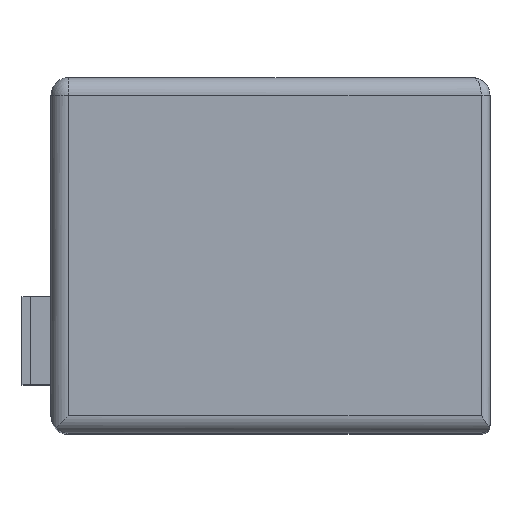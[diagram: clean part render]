
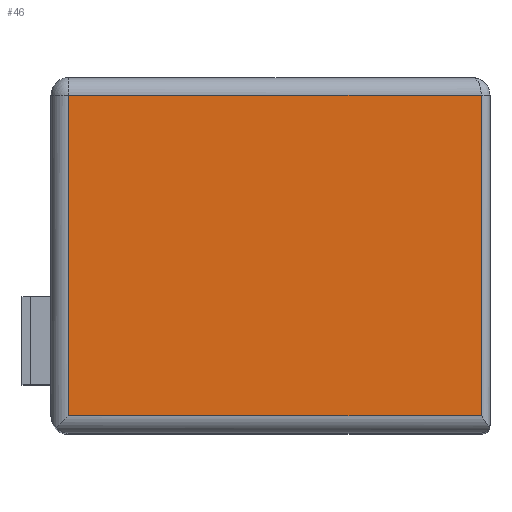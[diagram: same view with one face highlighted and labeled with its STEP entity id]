
A CAD part, top view. The second image highlights one B-rep face of the part: STEP entity #46.
In plain terms, the highlighted planar face has unit normal (0, 0, 1).
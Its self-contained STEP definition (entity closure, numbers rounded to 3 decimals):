
#46=ADVANCED_FACE('',(#142),#141,.T.);
#141=PLANE('',#685);
#142=FACE_OUTER_BOUND('',#686,.T.);
#682=CARTESIAN_POINT('',(-2.7,-42.15,94.4));
#683=DIRECTION('',(0.,0.,1.));
#684=DIRECTION('',(1.,0.,0.));
#685=AXIS2_PLACEMENT_3D('',#682,#683,#684);
#686=EDGE_LOOP('',(#885,#886,#887,#888));
#885=ORIENTED_EDGE('',*,*,#1080,.T.);
#886=ORIENTED_EDGE('',*,*,#1081,.T.);
#887=ORIENTED_EDGE('',*,*,#1072,.T.);
#888=ORIENTED_EDGE('',*,*,#1082,.T.);
#1072=EDGE_CURVE('',#1234,#1248,#1255,.T.);
#1080=EDGE_CURVE('',#1307,#1308,#1309,.T.);
#1081=EDGE_CURVE('',#1308,#1234,#1315,.T.);
#1082=EDGE_CURVE('',#1248,#1307,#1321,.T.);
#1234=VERTEX_POINT('',#1884);
#1248=VERTEX_POINT('',#1899);
#1255=LINE('',#1904,#1905);
#1307=VERTEX_POINT('',#1933);
#1308=VERTEX_POINT('',#1934);
#1309=LINE('',#1935,#1936);
#1315=LINE('',#1938,#1939);
#1321=LINE('',#1941,#1942);
#1884=CARTESIAN_POINT('',(49.,-38.5,94.4));
#1899=CARTESIAN_POINT('',(49.,-2.,94.4));
#1904=CARTESIAN_POINT('',(49.,-38.5,94.4));
#1905=VECTOR('',#1906,36.5);
#1906=DIRECTION('',(0.,1.,0.));
#1933=CARTESIAN_POINT('',(2.,-2.,94.4));
#1934=CARTESIAN_POINT('',(2.,-38.5,94.4));
#1935=CARTESIAN_POINT('',(2.,-2.,94.4));
#1936=VECTOR('',#1937,36.5);
#1937=DIRECTION('',(0.,-1.,0.));
#1938=CARTESIAN_POINT('',(2.,-38.5,94.4));
#1939=VECTOR('',#1940,47.);
#1940=DIRECTION('',(1.,0.,0.));
#1941=CARTESIAN_POINT('',(49.,-2.,94.4));
#1942=VECTOR('',#1943,47.);
#1943=DIRECTION('',(-1.,0.,0.));
